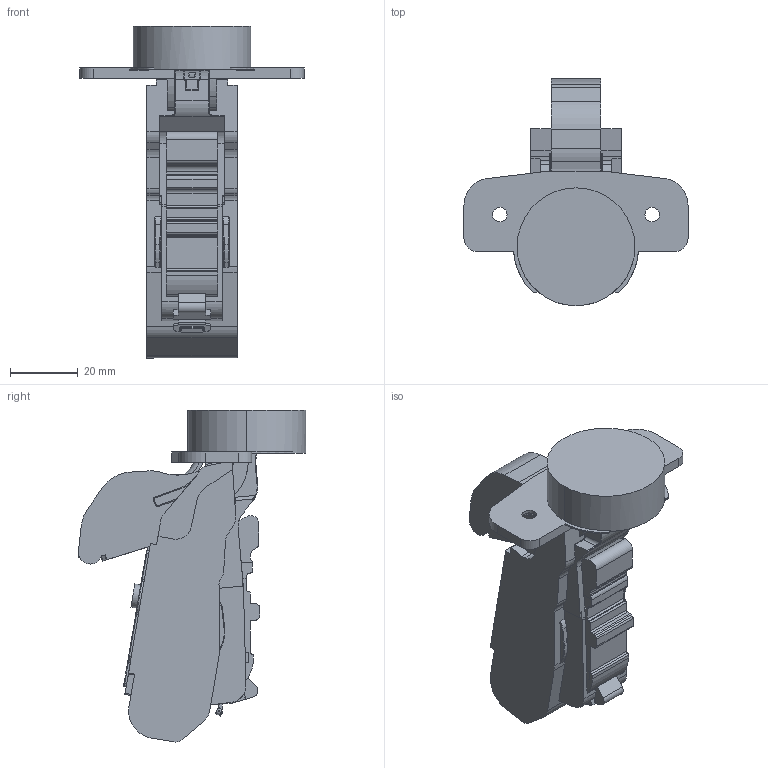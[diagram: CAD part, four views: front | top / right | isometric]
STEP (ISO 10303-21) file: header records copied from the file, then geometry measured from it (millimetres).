
FILE_DESCRIPTION (( 'STEP AP203' ), '1' );
FILE_NAME ('C81A805FAB DTC 3D CLOSE.STEP', '2024-07-30T01:31:36', ( '微软用户' ), ( '微软中国' ), 'SwSTEP 2.0', 'SolidWorks 2021', '' );
FILE_SCHEMA (( 'CONFIG_CONTROL_DESIGN' ));
Length unit declared in the file: millimetre
Products named in the file (1): C81A805FAB DTC 3D CLOSE
Bounding box: 66.2 x 67.21 x 98.04 mm (x, y, z)
Volume: 80703.2 mm3; surface area: 18779.8 mm2
Topology: 1 solids, 9 shells, 703 faces, 1930 edges, 1248 vertices
Faces by surface type: plane 305, cylinder 284, torus 87, bspline 16, sphere 7, cone 4
Entity records: 23684 total; most frequent: CARTESIAN_POINT 5673, ORIENTED_EDGE 3856, DIRECTION 3774, EDGE_CURVE 1928, AXIS2_PLACEMENT_3D 1341, VERTEX_POINT 1248, LINE 1092, VECTOR 1092
